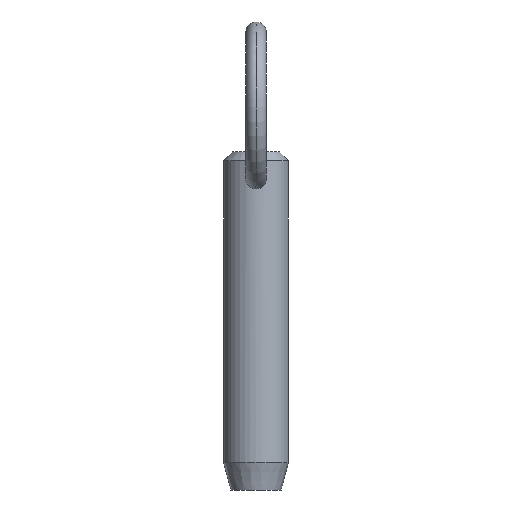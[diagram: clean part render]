
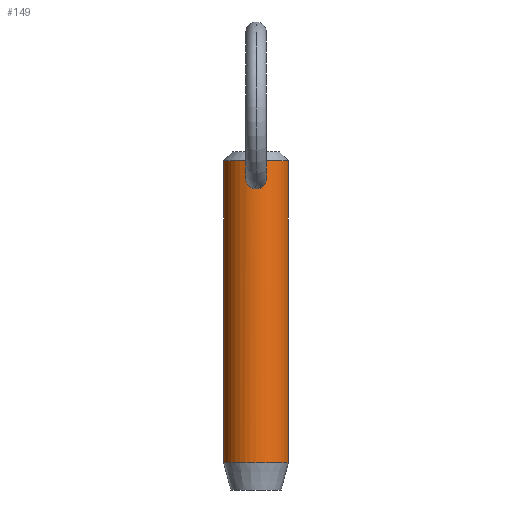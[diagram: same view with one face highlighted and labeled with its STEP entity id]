
A CAD part, front view. The second image highlights one B-rep face of the part: STEP entity #149.
In plain terms, the highlighted cylindrical face has radius 4.76 mm (diameter 9.52 mm), a partial arc.
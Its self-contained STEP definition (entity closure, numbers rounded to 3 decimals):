
#7 = CARTESIAN_POINT ( 'NONE',  ( -1.483, -4.524, 32.626 ) ) ;
#16 = AXIS2_PLACEMENT_3D ( 'NONE', #158, #440, #484 ) ;
#28 = CARTESIAN_POINT ( 'NONE',  ( 1.293, -4.582, 33.842 ) ) ;
#31 = CARTESIAN_POINT ( 'NONE',  ( 1.499, -4.518, 32.837 ) ) ;
#36 = DIRECTION ( 'NONE',  ( -1., 0., 0. ) ) ;
#37 = ORIENTED_EDGE ( 'NONE', *, *, #100, .T. ) ;
#42 = EDGE_LOOP ( 'NONE', ( #488, #480, #225, #464 ) ) ;
#49 = EDGE_CURVE ( 'NONE', #486, #177, #96, .T. ) ;
#52 = CARTESIAN_POINT ( 'NONE',  ( -0.777, -4.7, 34.485 ) ) ;
#57 = CARTESIAN_POINT ( 'NONE',  ( -1.441, -4.537, 33.457 ) ) ;
#62 = DIRECTION ( 'NONE',  ( 0., 0., 1. ) ) ;
#74 = CARTESIAN_POINT ( 'NONE',  ( 0.797, -4.697, 31.629 ) ) ;
#75 = CARTESIAN_POINT ( 'NONE',  ( 1.492, -4.52, 33.148 ) ) ;
#88 = CARTESIAN_POINT ( 'NONE',  ( -0.21, -4.76, 31.426 ) ) ;
#91 = LINE ( 'NONE', #318, #340 ) ;
#92 = CARTESIAN_POINT ( 'NONE',  ( -0.961, -4.663, 31.757 ) ) ;
#96 = CIRCLE ( 'NONE', #306, 4.76 ) ;
#97 = CARTESIAN_POINT ( 'NONE',  ( -0.703, -4.709, 31.589 ) ) ;
#100 = EDGE_CURVE ( 'NONE', #292, #285, #136, .T. ) ;
#106 = CARTESIAN_POINT ( 'NONE',  ( 1.24, -4.596, 32.06 ) ) ;
#108 = FACE_BOUND ( 'NONE', #351, .T. ) ;
#110 = CARTESIAN_POINT ( 'NONE',  ( 1.434, -4.539, 33.454 ) ) ;
#111 = CARTESIAN_POINT ( 'NONE',  ( 0.104, -4.76, 34.748 ) ) ;
#115 = CARTESIAN_POINT ( 'NONE',  ( 0., -4.76, 31.426 ) ) ;
#120 = EDGE_CURVE ( 'NONE', #289, #177, #353, .T. ) ;
#129 = CARTESIAN_POINT ( 'NONE',  ( -1.487, -4.522, 33.253 ) ) ;
#136 = B_SPLINE_CURVE_WITH_KNOTS ( 'NONE', 3,
 ( #509, #111, #139, #387, #150, #275, #417, #268, #316, #183, #28, #467, #110, #228, #75, #426, #31, #462, #465, #346, #309, #106, #384, #429, #74, #224, #269, #313, #380, #470 ),
 .UNSPECIFIED., .F., .F.,
 ( 4, 2, 2, 2, 2, 2, 2, 2, 2, 2, 2, 2, 2, 2, 4 ),
 ( 0.004, 0.005, 0.005, 0.005, 0.006, 0.006, 0.007, 0.007, 0.007, 0.007, 0.008, 0.008, 0.009, 0.009, 0.009 ),
 .UNSPECIFIED. ) ;
#139 = CARTESIAN_POINT ( 'NONE',  ( 0.209, -4.756, 34.734 ) ) ;
#140 = CIRCLE ( 'NONE', #16, 4.76 ) ;
#142 = DIRECTION ( 'NONE',  ( 0., 0., -1. ) ) ;
#149 = ADVANCED_FACE ( 'NONE', ( #445, #108 ), #394, .T. ) ;
#150 = CARTESIAN_POINT ( 'NONE',  ( 0.506, -4.734, 34.637 ) ) ;
#158 = CARTESIAN_POINT ( 'NONE',  ( 0., 0., 35.55 ) ) ;
#164 = CARTESIAN_POINT ( 'NONE',  ( -1.353, -4.564, 32.235 ) ) ;
#165 = CARTESIAN_POINT ( 'NONE',  ( -1.039, -4.646, 31.826 ) ) ;
#172 = B_SPLINE_CURVE_WITH_KNOTS ( 'NONE', 3,
 ( #115, #88, #399, #97, #364, #92, #165, #209, #164, #7, #444, #129, #57, #204, #206, #337, #52, #331, #338, #258, #492, #293 ),
 .UNSPECIFIED., .F., .F.,
 ( 4, 2, 2, 2, 2, 2, 2, 2, 2, 2, 4 ),
 ( 0.009, 0.01, 0.01, 0.011, 0.011, 0.012, 0.012, 0.013, 0.014, 0.014, 0.014 ),
 .UNSPECIFIED. ) ;
#177 = VERTEX_POINT ( 'NONE', #487 ) ;
#183 = CARTESIAN_POINT ( 'NONE',  ( 1.19, -4.611, 34.024 ) ) ;
#198 = CARTESIAN_POINT ( 'NONE',  ( 0., -4.76, 31.426 ) ) ;
#202 = EDGE_CURVE ( 'NONE', #265, #486, #91, .T. ) ;
#204 = CARTESIAN_POINT ( 'NONE',  ( -1.292, -4.582, 33.845 ) ) ;
#206 = CARTESIAN_POINT ( 'NONE',  ( -1.19, -4.611, 34.024 ) ) ;
#209 = CARTESIAN_POINT ( 'NONE',  ( -1.247, -4.596, 32.052 ) ) ;
#224 = CARTESIAN_POINT ( 'NONE',  ( 0.512, -4.733, 31.508 ) ) ;
#225 = ORIENTED_EDGE ( 'NONE', *, *, #202, .T. ) ;
#228 = CARTESIAN_POINT ( 'NONE',  ( 1.478, -4.525, 33.252 ) ) ;
#231 = DIRECTION ( 'NONE',  ( 0., 0., -1. ) ) ;
#233 = DIRECTION ( 'NONE',  ( 0., 0., -1. ) ) ;
#240 = AXIS2_PLACEMENT_3D ( 'NONE', #512, #231, #36 ) ;
#250 = VECTOR ( 'NONE', #142, 1000. ) ;
#258 = CARTESIAN_POINT ( 'NONE',  ( -0.208, -4.757, 34.734 ) ) ;
#264 = CARTESIAN_POINT ( 'NONE',  ( 0., 0., -8.7 ) ) ;
#265 = VERTEX_POINT ( 'NONE', #397 ) ;
#268 = CARTESIAN_POINT ( 'NONE',  ( 0.925, -4.67, 34.339 ) ) ;
#269 = CARTESIAN_POINT ( 'NONE',  ( 0.411, -4.743, 31.477 ) ) ;
#275 = CARTESIAN_POINT ( 'NONE',  ( 0.687, -4.711, 34.535 ) ) ;
#285 = VERTEX_POINT ( 'NONE', #198 ) ;
#289 = VERTEX_POINT ( 'NONE', #483 ) ;
#292 = VERTEX_POINT ( 'NONE', #324 ) ;
#293 = CARTESIAN_POINT ( 'NONE',  ( 0., -4.76, 34.748 ) ) ;
#298 = EDGE_CURVE ( 'NONE', #289, #265, #140, .T. ) ;
#306 = AXIS2_PLACEMENT_3D ( 'NONE', #264, #62, #508 ) ;
#309 = CARTESIAN_POINT ( 'NONE',  ( 1.344, -4.567, 32.239 ) ) ;
#310 = EDGE_CURVE ( 'NONE', #285, #292, #172, .T. ) ;
#313 = CARTESIAN_POINT ( 'NONE',  ( 0.208, -4.757, 31.436 ) ) ;
#316 = CARTESIAN_POINT ( 'NONE',  ( 0.997, -4.655, 34.264 ) ) ;
#318 = CARTESIAN_POINT ( 'NONE',  ( -4.76, 0., 30.5 ) ) ;
#324 = CARTESIAN_POINT ( 'NONE',  ( 0., -4.76, 34.748 ) ) ;
#331 = CARTESIAN_POINT ( 'NONE',  ( -0.504, -4.734, 34.638 ) ) ;
#337 = CARTESIAN_POINT ( 'NONE',  ( -0.932, -4.67, 34.345 ) ) ;
#338 = CARTESIAN_POINT ( 'NONE',  ( -0.409, -4.743, 34.678 ) ) ;
#340 = VECTOR ( 'NONE', #233, 1000. ) ;
#341 = CARTESIAN_POINT ( 'NONE',  ( -4.76, 0., -8.7 ) ) ;
#346 = CARTESIAN_POINT ( 'NONE',  ( 1.385, -4.554, 32.332 ) ) ;
#347 = CARTESIAN_POINT ( 'NONE',  ( 4.76, 0., 30.5 ) ) ;
#351 = EDGE_LOOP ( 'NONE', ( #37, #418 ) ) ;
#353 = LINE ( 'NONE', #347, #250 ) ;
#364 = CARTESIAN_POINT ( 'NONE',  ( -0.793, -4.694, 31.639 ) ) ;
#380 = CARTESIAN_POINT ( 'NONE',  ( 0.105, -4.76, 31.426 ) ) ;
#384 = CARTESIAN_POINT ( 'NONE',  ( 1.178, -4.613, 31.976 ) ) ;
#387 = CARTESIAN_POINT ( 'NONE',  ( 0.409, -4.743, 34.678 ) ) ;
#394 = CYLINDRICAL_SURFACE ( 'NONE', #240, 4.76 ) ;
#397 = CARTESIAN_POINT ( 'NONE',  ( -4.76, 0., 35.55 ) ) ;
#399 = CARTESIAN_POINT ( 'NONE',  ( -0.416, -4.746, 31.467 ) ) ;
#417 = CARTESIAN_POINT ( 'NONE',  ( 0.77, -4.698, 34.475 ) ) ;
#418 = ORIENTED_EDGE ( 'NONE', *, *, #310, .T. ) ;
#426 = CARTESIAN_POINT ( 'NONE',  ( 1.503, -4.517, 32.94 ) ) ;
#429 = CARTESIAN_POINT ( 'NONE',  ( 0.97, -4.662, 31.75 ) ) ;
#440 = DIRECTION ( 'NONE',  ( 0., 0., -1. ) ) ;
#444 = CARTESIAN_POINT ( 'NONE',  ( -1.508, -4.515, 32.837 ) ) ;
#445 = FACE_OUTER_BOUND ( 'NONE', #42, .T. ) ;
#462 = CARTESIAN_POINT ( 'NONE',  ( 1.473, -4.526, 32.631 ) ) ;
#464 = ORIENTED_EDGE ( 'NONE', *, *, #49, .T. ) ;
#465 = CARTESIAN_POINT ( 'NONE',  ( 1.45, -4.534, 32.528 ) ) ;
#467 = CARTESIAN_POINT ( 'NONE',  ( 1.404, -4.548, 33.553 ) ) ;
#470 = CARTESIAN_POINT ( 'NONE',  ( 0., -4.76, 31.426 ) ) ;
#480 = ORIENTED_EDGE ( 'NONE', *, *, #298, .T. ) ;
#483 = CARTESIAN_POINT ( 'NONE',  ( 4.76, 0., 35.55 ) ) ;
#484 = DIRECTION ( 'NONE',  ( 1., 0., 0. ) ) ;
#486 = VERTEX_POINT ( 'NONE', #341 ) ;
#487 = CARTESIAN_POINT ( 'NONE',  ( 4.76, 0., -8.7 ) ) ;
#488 = ORIENTED_EDGE ( 'NONE', *, *, #120, .F. ) ;
#492 = CARTESIAN_POINT ( 'NONE',  ( -0.103, -4.76, 34.748 ) ) ;
#508 = DIRECTION ( 'NONE',  ( -1., 0., 0. ) ) ;
#509 = CARTESIAN_POINT ( 'NONE',  ( 0., -4.76, 34.748 ) ) ;
#512 = CARTESIAN_POINT ( 'NONE',  ( 0., 0., 30.5 ) ) ;
